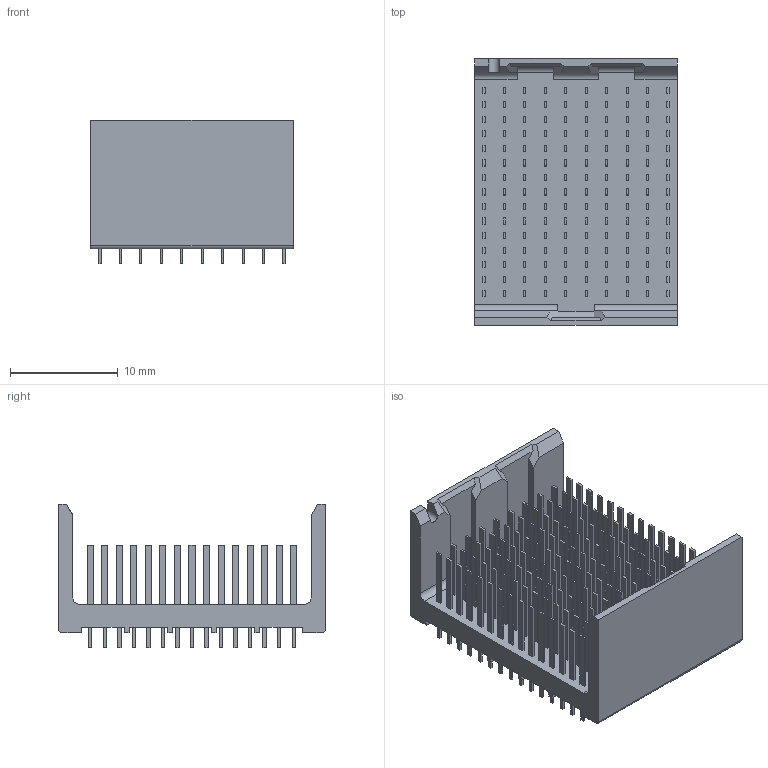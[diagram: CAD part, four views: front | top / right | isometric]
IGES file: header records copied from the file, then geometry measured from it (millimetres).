
Start section:  PTC IGES file: c-2007852-3-a-3d.igs
Global section: file name: c-2007852-3-a-3d.igs; native system: Creo Parametric by PTC Inc.; preprocessor: 2015200; author: workeradm; organization: Unknown; units: millimetre
Bounding box: 18.85 x 24.8 x 13.35 mm (x, y, z)
Surface area: 3537.2 mm2 (no closed solid volume)
Topology: 0 solids, 0 shells, 1571 faces, 7614 edges, 7614 vertices
Faces by surface type: bspline 1560, revolution 11
